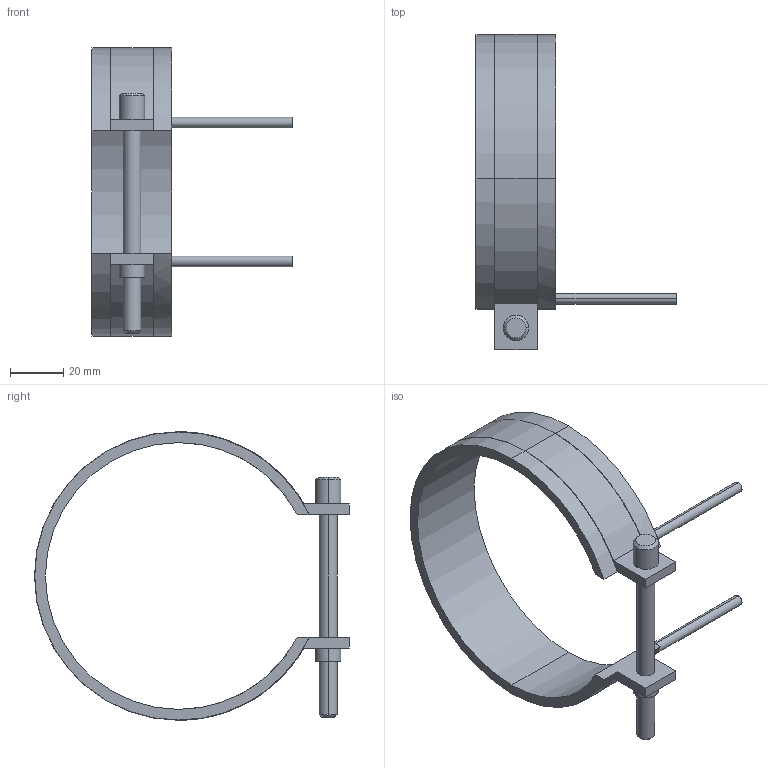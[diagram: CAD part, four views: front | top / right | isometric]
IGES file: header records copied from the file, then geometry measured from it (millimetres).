
Start section: START RECORD GO HERE.
Global section: file name: 14100030.igs; native system: DASSAULT SYSTEMES CATIA V5 R20 - www.3ds.com; preprocessor: CATIA Version 5 Release 20 ; author: Utente; organization: NB04-ASUS; date: 20210403.105551; units: millimetre
Bounding box: 75 x 118.1 x 108.2 mm (x, y, z)
Surface area: 23466.2 mm2 (no closed solid volume)
Topology: 0 solids, 0 shells, 45 faces, 232 edges, 232 vertices
Faces by surface type: revolution 28, plane 17
